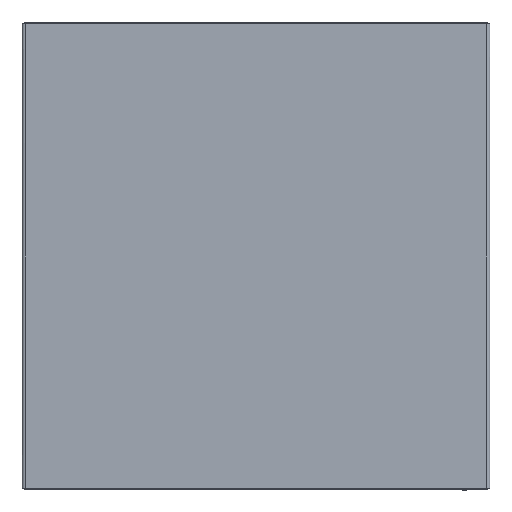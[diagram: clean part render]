
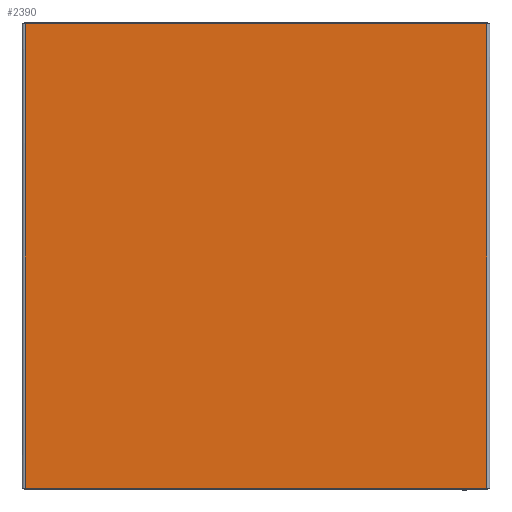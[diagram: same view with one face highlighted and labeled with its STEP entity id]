
A CAD part, front view. The second image highlights one B-rep face of the part: STEP entity #2390.
In plain terms, the highlighted free-form (B-spline) face has degree [1, 1] with [2, 2] control points.
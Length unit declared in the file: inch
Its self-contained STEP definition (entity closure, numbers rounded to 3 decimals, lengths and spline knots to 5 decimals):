
#2324=CARTESIAN_POINT('V65',(0.08,-0.072,
   23.84));
#2325=VERTEX_POINT('V65',#2324);
#2340=CARTESIAN_POINT('V68',(0.08,-0.072,
   0.));
#2341=VERTEX_POINT('V68',#2340);
#2355=CARTESIAN_POINT('E76',(0.08,-0.072,
   0.));
#2356=CARTESIAN_POINT('E76',(0.08,-0.072,
   23.84));
#2357=QUASI_UNIFORM_CURVE('E76',1,(#2355,#2356),.POLYLINE_FORM.,.F.,
   .U.);
#2358=EDGE_CURVE('E76',#2341,#2325,#2357,.T.);
#2363=CARTESIAN_POINT('F23',(23.776,-0.072,
   0.));
#2364=CARTESIAN_POINT('F23',(23.776,-0.072,
   23.84));
#2365=CARTESIAN_POINT('F23',(0.08,-0.072,
   0.));
#2366=CARTESIAN_POINT('F23',(0.08,-0.072,
   23.84));
#2367=B_SPLINE_SURFACE_WITH_KNOTS('F23',1,1,((#2363,#2365),(#2364,
   #2366)),.PLANE_SURF.,.F.,.F.,.U.,(2,2),(2,2),(
   0.00005,0.99995),(0.00005,
   0.99995),.UNSPECIFIED.);
#2368=CARTESIAN_POINT('V64',(23.776,-0.072,
   23.84));
#2369=VERTEX_POINT('V64',#2368);
#2370=CARTESIAN_POINT('E119',(23.776,-0.072,
   23.84));
#2371=CARTESIAN_POINT('E119',(0.08,-0.072,
   23.84));
#2372=QUASI_UNIFORM_CURVE('E119',1,(#2370,#2371),.POLYLINE_FORM.,.F.,
   .U.);
#2373=EDGE_CURVE('E119',#2369,#2325,#2372,.T.);
#2374=ORIENTED_EDGE('E119',*,*,#2373,.T.);
#2375=ORIENTED_EDGE('F18',*,*,#2358,.F.);
#2376=CARTESIAN_POINT('V61',(23.776,-0.072,
   0.));
#2377=VERTEX_POINT('V61',#2376);
#2378=CARTESIAN_POINT('E120',(0.08,-0.072,
   0.0));
#2379=CARTESIAN_POINT('E120',(23.776,-0.072,
   0.0));
#2380=QUASI_UNIFORM_CURVE('E120',1,(#2378,#2379),.POLYLINE_FORM.,.F.,
   .U.);
#2381=EDGE_CURVE('E120',#2341,#2377,#2380,.T.);
#2382=ORIENTED_EDGE('E120',*,*,#2381,.T.);
#2383=CARTESIAN_POINT('E72',(23.776,-0.072,
   23.84));
#2384=CARTESIAN_POINT('E72',(23.776,-0.072,
   0.));
#2385=QUASI_UNIFORM_CURVE('E72',1,(#2383,#2384),.POLYLINE_FORM.,.F.,
   .U.);
#2386=EDGE_CURVE('E72',#2369,#2377,#2385,.T.);
#2387=ORIENTED_EDGE('E72',*,*,#2386,.F.);
#2388=EDGE_LOOP('F23',(#2374,#2375,#2382,#2387));
#2389=FACE_OUTER_BOUND('F23',#2388,.T.);
#2390=ADVANCED_FACE('F23',(#2389),#2367,.T.);
